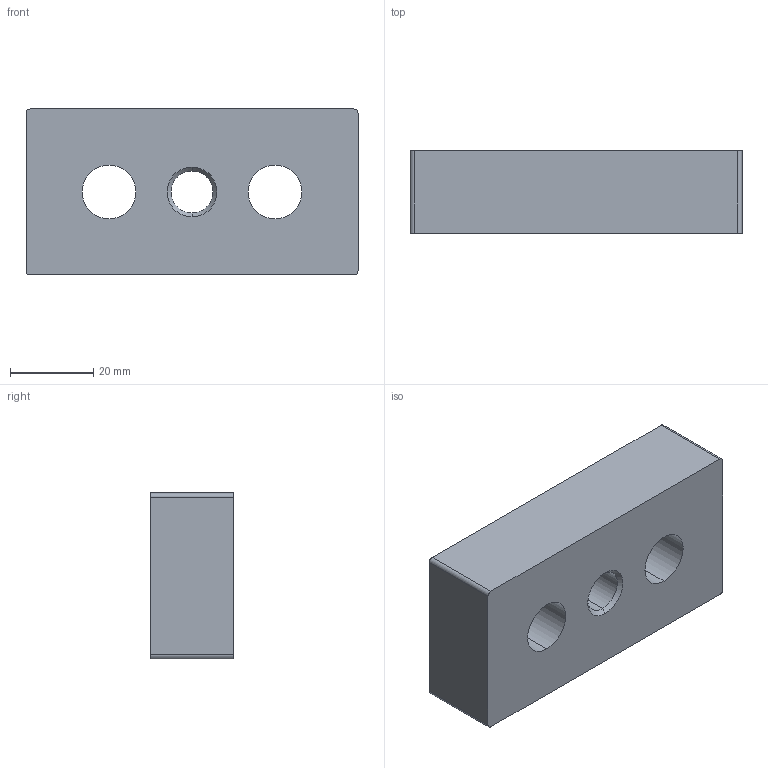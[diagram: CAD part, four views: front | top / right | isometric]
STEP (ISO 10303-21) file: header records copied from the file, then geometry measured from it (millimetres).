
FILE_DESCRIPTION (( 'STEP AP203' ), '1' );
FILE_NAME ('TCFE 40x80 M12 End plate M12 40x80 (01-06-2021).STEP', '2021-06-01T06:11:21', ( '' ), ( '' ), 'SwSTEP 2.0', 'SolidWorks 2020', '' );
FILE_SCHEMA (( 'CONFIG_CONTROL_DESIGN' ));
Length unit declared in the file: millimetre
Products named in the file (1): TCFE 40x80 M12 End plate M12 40x80 (01-06-2021)
Bounding box: 80 x 20 x 40 mm (x, y, z)
Volume: 53733.1 mm3; surface area: 13120.9 mm2
Topology: 1 solids, 1 shells, 42 faces, 110 edges, 64 vertices
Faces by surface type: cone 20, cylinder 14, plane 8
Entity records: 1287 total; most frequent: DIRECTION 228, CARTESIAN_POINT 201, ORIENTED_EDGE 188, EDGE_CURVE 94, AXIS2_PLACEMENT_3D 91, VERTEX_POINT 64, EDGE_LOOP 58, CIRCLE 48
